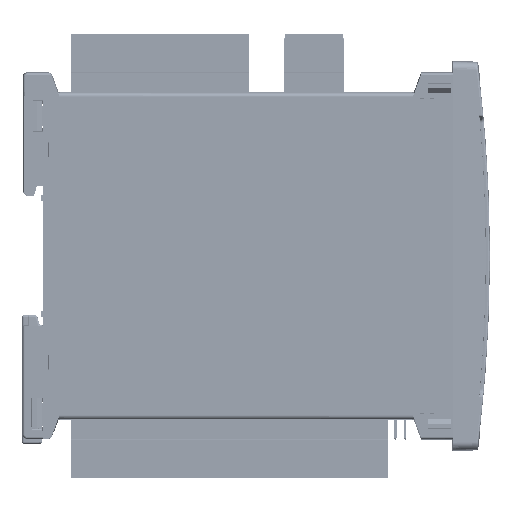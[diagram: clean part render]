
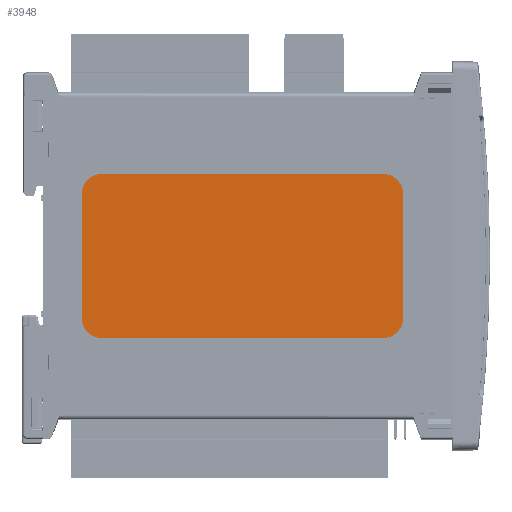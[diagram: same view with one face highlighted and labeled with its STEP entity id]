
A CAD part, front view. The second image highlights one B-rep face of the part: STEP entity #3948.
In plain terms, the highlighted planar face has unit normal (0, -1, 0) as drawn and (1, 0, 0) by its records, which use the part's own axes.
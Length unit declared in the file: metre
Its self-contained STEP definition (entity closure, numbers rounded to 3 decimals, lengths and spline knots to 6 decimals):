
#3948=ADVANCED_FACE('0:10233',(#11408),#11409,.F.);
#11408=FACE_OUTER_BOUND('',#26292,.T.);
#11409=PLANE('',#26293);
#26292=EDGE_LOOP('',(#45035,#45036,#45037,#45038,#45039,#45040,#45041,#45042));
#26293=AXIS2_PLACEMENT_3D('',#45043,#45044,#45045);
#45035=ORIENTED_EDGE('',*,*,#94015,.T.);
#45036=ORIENTED_EDGE('',*,*,#94023,.T.);
#45037=ORIENTED_EDGE('',*,*,#94011,.T.);
#45038=ORIENTED_EDGE('',*,*,#94024,.T.);
#45039=ORIENTED_EDGE('',*,*,#94020,.T.);
#45040=ORIENTED_EDGE('',*,*,#94025,.T.);
#45041=ORIENTED_EDGE('',*,*,#94017,.T.);
#45042=ORIENTED_EDGE('',*,*,#94026,.T.);
#45043=CARTESIAN_POINT('',(0.0108,0.020989,-0.0949));
#45044=DIRECTION('',(-1.0,0.0,0.0));
#45045=DIRECTION('',(0.0,0.0,1.0));
#94011=EDGE_CURVE('0:12905',#112627,#112628,#112629,.T.);
#94015=EDGE_CURVE('0:12917',#112634,#112632,#112635,.T.);
#94017=EDGE_CURVE('0:12923',#112637,#112638,#112639,.T.);
#94020=EDGE_CURVE('0:12932',#112642,#112643,#112644,.T.);
#94023=EDGE_CURVE('0:12941',#112632,#112627,#112647,.T.);
#94024=EDGE_CURVE('0:12944',#112628,#112642,#112648,.T.);
#94025=EDGE_CURVE('0:12947',#112643,#112637,#112649,.T.);
#94026=EDGE_CURVE('0:12950',#112638,#112634,#112650,.T.);
#112627=VERTEX_POINT('NONE',#141884);
#112628=VERTEX_POINT('NONE',#141885);
#112629=LINE('',#141886,#141887);
#112632=VERTEX_POINT('NONE',#141892);
#112634=VERTEX_POINT('NONE',#141895);
#112635=LINE('',#141896,#141897);
#112637=VERTEX_POINT('NONE',#141900);
#112638=VERTEX_POINT('NONE',#141901);
#112639=LINE('',#141902,#141903);
#112642=VERTEX_POINT('NONE',#141908);
#112643=VERTEX_POINT('NONE',#141909);
#112644=LINE('',#141910,#141911);
#112647=CIRCLE('',#141916,0.005);
#112648=CIRCLE('',#141917,0.005);
#112649=CIRCLE('',#141918,0.005);
#112650=CIRCLE('',#141919,0.005);
#141884=CARTESIAN_POINT('',(0.0108,-0.015989,-0.0949));
#141885=CARTESIAN_POINT('',(0.0108,0.015989,-0.0949));
#141886=CARTESIAN_POINT('',(0.0108,-0.020989,-0.0949));
#141887=VECTOR('',#182100,1.0);
#141892=CARTESIAN_POINT('',(0.0108,-0.020989,-0.0899));
#141895=CARTESIAN_POINT('',(0.0108,-0.020989,-0.01763));
#141896=CARTESIAN_POINT('',(0.0108,-0.020989,-0.01263));
#141897=VECTOR('',#182104,1.0);
#141900=CARTESIAN_POINT('',(0.0108,0.015989,-0.01263));
#141901=CARTESIAN_POINT('',(0.0108,-0.015989,-0.01263));
#141902=CARTESIAN_POINT('',(0.0108,-0.020989,-0.01263));
#141903=VECTOR('',#182106,1.0);
#141908=CARTESIAN_POINT('',(0.0108,0.020989,-0.0899));
#141909=CARTESIAN_POINT('',(0.0108,0.020989,-0.01763));
#141910=CARTESIAN_POINT('',(0.0108,0.020989,-0.01263));
#141911=VECTOR('',#182109,1.0);
#141916=AXIS2_PLACEMENT_3D('',#182112,#182113,#182114);
#141917=AXIS2_PLACEMENT_3D('',#182115,#182116,#182117);
#141918=AXIS2_PLACEMENT_3D('',#182118,#182119,#182120);
#141919=AXIS2_PLACEMENT_3D('',#182121,#182122,#182123);
#182100=DIRECTION('',(0.0,1.0,0.0));
#182104=DIRECTION('',(0.0,0.0,-1.0));
#182106=DIRECTION('',(-0.0,-1.0,-0.0));
#182109=DIRECTION('',(-0.0,-0.0,1.0));
#182112=CARTESIAN_POINT('',(0.0108,-0.015989,-0.0899));
#182113=DIRECTION('',(1.0,0.0,-0.0));
#182114=DIRECTION('',(0.0,0.0,1.0));
#182115=CARTESIAN_POINT('',(0.0108,0.015989,-0.0899));
#182116=DIRECTION('',(1.0,0.0,-0.0));
#182117=DIRECTION('',(0.0,0.0,1.0));
#182118=CARTESIAN_POINT('',(0.0108,0.015989,-0.01763));
#182119=DIRECTION('',(1.0,0.0,-0.0));
#182120=DIRECTION('',(0.0,0.0,1.0));
#182121=CARTESIAN_POINT('',(0.0108,-0.015989,-0.01763));
#182122=DIRECTION('',(1.0,0.0,-0.0));
#182123=DIRECTION('',(0.0,0.0,1.0));
